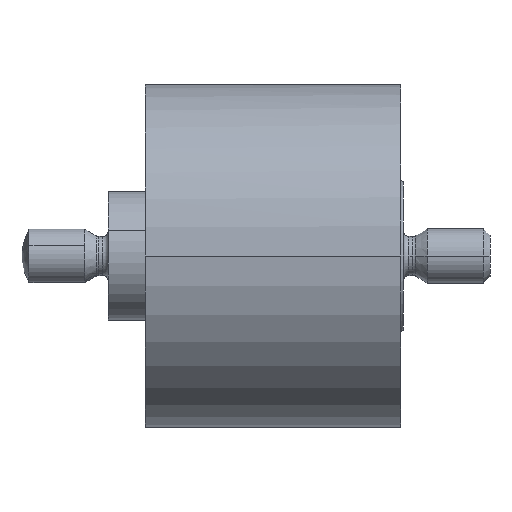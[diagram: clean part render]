
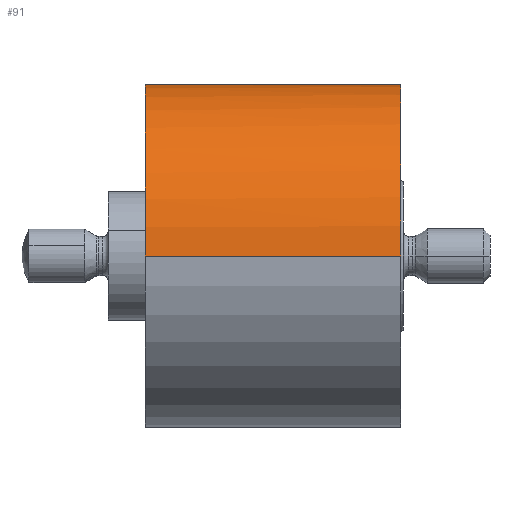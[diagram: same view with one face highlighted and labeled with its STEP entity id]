
A CAD part, left-side view. The second image highlights one B-rep face of the part: STEP entity #91.
In plain terms, the highlighted cylindrical face has radius 12.7 mm (diameter 25.4 mm), a partial arc.
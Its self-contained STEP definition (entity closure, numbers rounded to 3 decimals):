
#91=ADVANCED_FACE('',(#173),#174,.T.);
#173=FACE_OUTER_BOUND('',#313,.T.);
#174=CYLINDRICAL_SURFACE('',#314,12.7);
#313=EDGE_LOOP('',(#545,#546,#547,#548,#549,#550,#551,#552));
#314=AXIS2_PLACEMENT_3D('',#553,#554,#555);
#545=ORIENTED_EDGE('',*,*,#993,.F.);
#546=ORIENTED_EDGE('',*,*,#994,.T.);
#547=ORIENTED_EDGE('',*,*,#995,.T.);
#548=ORIENTED_EDGE('',*,*,#996,.F.);
#549=ORIENTED_EDGE('',*,*,#997,.T.);
#550=ORIENTED_EDGE('',*,*,#998,.F.);
#551=ORIENTED_EDGE('',*,*,#975,.F.);
#552=ORIENTED_EDGE('',*,*,#999,.F.);
#553=CARTESIAN_POINT('',(0.0,7.05,0.0));
#554=DIRECTION('',(0.0,-1.0,0.0));
#555=DIRECTION('',(1.0,0.0,0.0));
#975=EDGE_CURVE('',#1173,#1175,#1176,.T.);
#993=EDGE_CURVE('',#1207,#1208,#1209,.T.);
#994=EDGE_CURVE('',#1207,#1210,#1211,.T.);
#995=EDGE_CURVE('',#1210,#1212,#1213,.T.);
#996=EDGE_CURVE('',#1214,#1212,#1215,.T.);
#997=EDGE_CURVE('',#1214,#1216,#1217,.T.);
#998=EDGE_CURVE('',#1175,#1216,#1218,.T.);
#999=EDGE_CURVE('',#1208,#1173,#1219,.T.);
#1173=VERTEX_POINT('',#1444);
#1175=VERTEX_POINT('',#1447);
#1176=B_SPLINE_CURVE_WITH_KNOTS('',3,(#1448,#1449,#1450,#1451,#1452,#1453,#1454,#1455,#1456,#1457,#1458,#1459),.UNSPECIFIED.,.F.,.F.,(4,2,2,2,2,4),(1.368,1.447,1.628,1.809,1.989,2.17),.UNSPECIFIED.);
#1207=VERTEX_POINT('',#1508);
#1208=VERTEX_POINT('',#1509);
#1209=LINE('',#1510,#1511);
#1210=VERTEX_POINT('',#1512);
#1211=CIRCLE('',#1513,12.7);
#1212=VERTEX_POINT('',#1514);
#1213=CIRCLE('',#1515,12.7);
#1214=VERTEX_POINT('',#1516);
#1215=LINE('',#1517,#1518);
#1216=VERTEX_POINT('',#1519);
#1217=CIRCLE('',#1520,12.7);
#1218=LINE('',#1521,#1522);
#1219=B_SPLINE_CURVE_WITH_KNOTS('',3,(#1523,#1524,#1525,#1526,#1527,#1528,#1529,#1530,#1531,#1532),.UNSPECIFIED.,.F.,.F.,(4,2,2,2,4),(0.723,0.904,1.085,1.266,1.368),.UNSPECIFIED.);
#1444=CARTESIAN_POINT('',(11.806,7.854,4.681));
#1447=CARTESIAN_POINT('',(12.7,2.3,0.));
#1448=CARTESIAN_POINT('',(11.806,7.854,4.681));
#1449=CARTESIAN_POINT('',(11.787,7.584,4.728));
#1450=CARTESIAN_POINT('',(11.778,7.314,4.75));
#1451=CARTESIAN_POINT('',(11.778,6.447,4.75));
#1452=CARTESIAN_POINT('',(11.829,5.808,4.628));
#1453=CARTESIAN_POINT('',(12.008,4.64,4.142));
#1454=CARTESIAN_POINT('',(12.133,4.11,3.777));
#1455=CARTESIAN_POINT('',(12.363,3.273,2.94));
#1456=CARTESIAN_POINT('',(12.483,2.908,2.41));
#1457=CARTESIAN_POINT('',(12.653,2.422,1.241));
#1458=CARTESIAN_POINT('',(12.7,2.3,0.603));
#1459=CARTESIAN_POINT('',(12.7,2.3,0.));
#1508=CARTESIAN_POINT('',(12.7,16.6,0.));
#1509=CARTESIAN_POINT('',(12.7,11.8,0.));
#1510=CARTESIAN_POINT('',(12.7,7.05,0.));
#1511=VECTOR('',#1819,1.0);
#1512=CARTESIAN_POINT('',(3.557,16.6,12.192));
#1513=AXIS2_PLACEMENT_3D('',#1820,#1821,#1822);
#1514=CARTESIAN_POINT('',(-12.7,16.6,0.));
#1515=AXIS2_PLACEMENT_3D('',#1823,#1824,#1825);
#1516=CARTESIAN_POINT('',(-12.7,-2.3,0.));
#1517=CARTESIAN_POINT('',(-12.7,7.05,0.));
#1518=VECTOR('',#1826,1.0);
#1519=CARTESIAN_POINT('',(12.7,-2.3,0.0));
#1520=AXIS2_PLACEMENT_3D('',#1827,#1828,#1829);
#1521=CARTESIAN_POINT('',(12.7,7.05,0.));
#1522=VECTOR('',#1830,1.0);
#1523=CARTESIAN_POINT('',(12.7,11.8,0.));
#1524=CARTESIAN_POINT('',(12.7,11.8,0.603));
#1525=CARTESIAN_POINT('',(12.653,11.678,1.241));
#1526=CARTESIAN_POINT('',(12.483,11.192,2.41));
#1527=CARTESIAN_POINT('',(12.363,10.827,2.94));
#1528=CARTESIAN_POINT('',(12.133,9.99,3.777));
#1529=CARTESIAN_POINT('',(12.008,9.46,4.142));
#1530=CARTESIAN_POINT('',(11.869,8.547,4.522));
#1531=CARTESIAN_POINT('',(11.829,8.201,4.622));
#1532=CARTESIAN_POINT('',(11.806,7.854,4.681));
#1819=DIRECTION('',(0.0,-1.0,0.0));
#1820=CARTESIAN_POINT('',(0.,16.6,0.));
#1821=DIRECTION('',(0.0,-1.0,0.0));
#1822=DIRECTION('',(0.28,0.0,0.96));
#1823=CARTESIAN_POINT('',(0.,16.6,0.));
#1824=DIRECTION('',(0.0,-1.0,0.0));
#1825=DIRECTION('',(0.28,0.0,0.96));
#1826=DIRECTION('',(0.0,1.0,0.0));
#1827=CARTESIAN_POINT('',(0.0,-2.3,0.0));
#1828=DIRECTION('',(0.0,1.0,0.0));
#1829=DIRECTION('',(1.0,0.0,0.0));
#1830=DIRECTION('',(0.0,-1.0,0.0));
